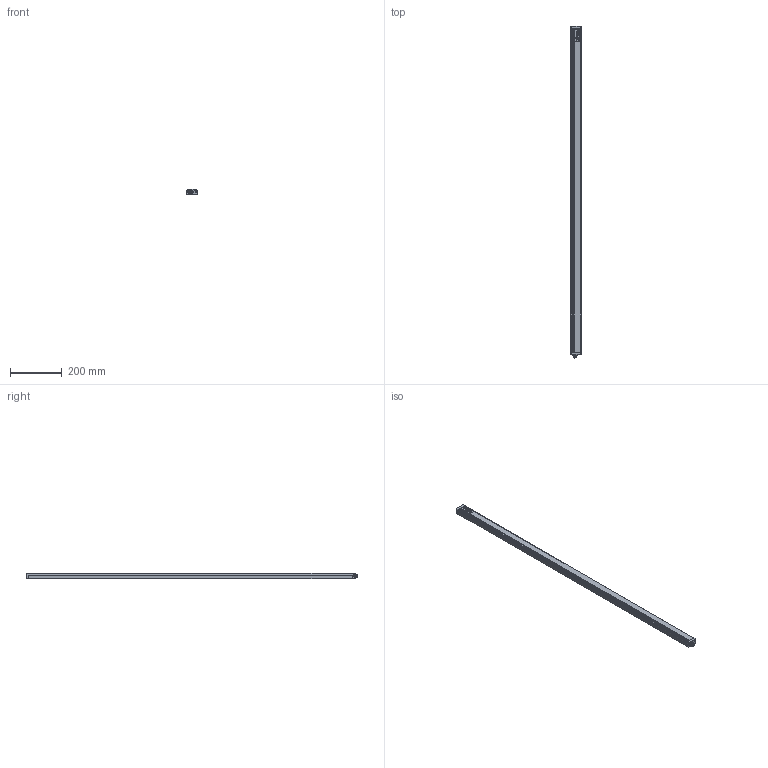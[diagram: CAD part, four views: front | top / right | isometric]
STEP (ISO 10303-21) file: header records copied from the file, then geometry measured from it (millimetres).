
FILE_DESCRIPTION(/* description */ (''),/* implementation_level */ '2;1');
FILE_NAME(/* name */ 'C:\Users\andre\SynologyDrive\Optoscan\Libreria Componenti\00 - Barriere\Polaris sorgente\Polaris_1250_TX.stp',/* time_stamp */ '2021-06-04T11:00:14+02:00',/* author */ ('andre'),/* organization */ (''),/* preprocessor_version */ 'ST-DEVELOPER v18',/* originating_system */ 'Autodesk Inventor 2020',/* authorisation */ '');
FILE_SCHEMA (('AUTOMOTIVE_DESIGN { 1 0 10303 214 3 1 1 }'));
Length unit declared in the file: millimetre
Products named in the file (1): Polaris_1250_TX
Bounding box: 40.5 x 1280.8 x 20.75 mm (x, y, z)
Volume: 253187 mm3; surface area: 333484.2 mm2
Topology: 1 solids, 1 shells, 738 faces, 2048 edges, 1320 vertices
Faces by surface type: plane 331, cylinder 207, bspline 115, torus 71, cone 8, sphere 6
Full cylindrical faces by diameter (mm): 1 x8, 2.459 x4, 2.5 x4, 3 x4, 3.5 x4, 5.5 x4, 8 x1, 10.5 x2, 11.75 x9, 12 x1, 12.3 x2, 14.5 x1, 16.7 x1, 17.5 x1
Entity records: 30426 total; most frequent: CARTESIAN_POINT 11243, ORIENTED_EDGE 4082, DIRECTION 3549, EDGE_CURVE 2041, VERTEX_POINT 1321, AXIS2_PLACEMENT_3D 1243, LINE 1063, VECTOR 1063
